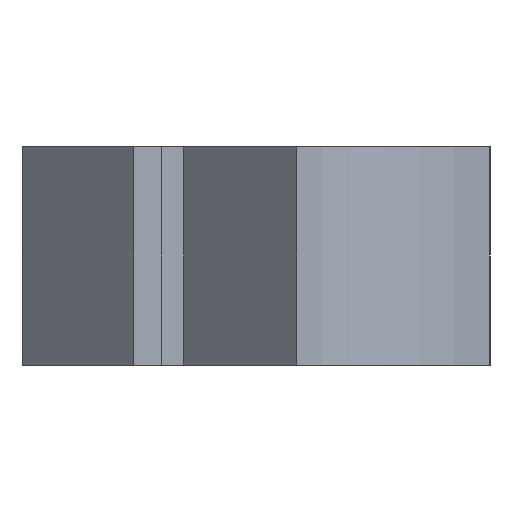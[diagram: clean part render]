
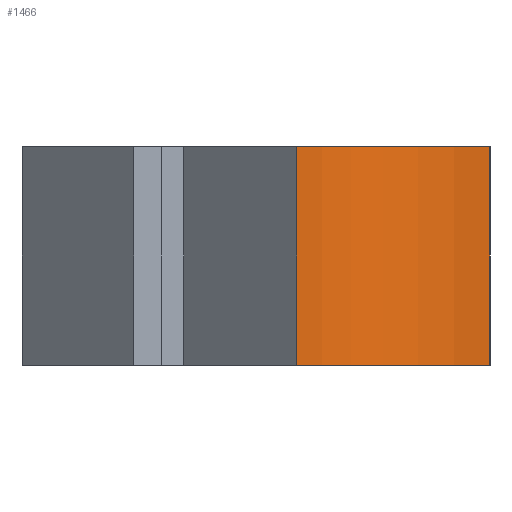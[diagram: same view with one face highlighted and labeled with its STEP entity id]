
A CAD part, left-side view. The second image highlights one B-rep face of the part: STEP entity #1466.
In plain terms, the highlighted cylindrical face has radius 25 mm (diameter 50 mm), a partial arc.
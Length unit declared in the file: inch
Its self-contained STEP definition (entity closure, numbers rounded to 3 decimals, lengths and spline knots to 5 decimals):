
#1408=CARTESIAN_POINT('',(-0.89213,-0.88583,1.0));
#1409=VERTEX_POINT('',#1408);
#1416=CARTESIAN_POINT('',(-0.89213,-0.88583,0.0));
#1417=VERTEX_POINT('',#1416);
#1418=CARTESIAN_POINT('',(-0.89213,-0.88583,0.0));
#1419=DIRECTION('',(0.0,0.0,1.0));
#1420=VECTOR('',#1419,1.0);
#1421=LINE('',#1418,#1420);
#1422=EDGE_CURVE('',#1417,#1409,#1421,.T.);
#1434=CARTESIAN_POINT('',(-1.87008,-0.77461,0.0));
#1435=DIRECTION('',(0.0,0.0,1.0));
#1436=DIRECTION('',(-0.994,0.113,0.0));
#1437=AXIS2_PLACEMENT_3D('',#1434,#1435,#1436);
#1438=CYLINDRICAL_SURFACE('',#1437,0.98425);
#1439=CARTESIAN_POINT('',(-1.25721,-0.00446,1.0));
#1440=VERTEX_POINT('',#1439);
#1441=CARTESIAN_POINT('',(-1.87008,-0.77461,1.0));
#1442=DIRECTION('',(0.0,0.0,1.0));
#1443=DIRECTION('',(-0.994,0.113,0.0));
#1444=AXIS2_PLACEMENT_3D('',#1441,#1442,#1443);
#1445=CIRCLE('',#1444,0.98425);
#1446=EDGE_CURVE('',#1409,#1440,#1445,.T.);
#1447=ORIENTED_EDGE('',*,*,#1446,.T.);
#1448=CARTESIAN_POINT('',(-1.25721,-0.00446,0.0));
#1449=VERTEX_POINT('',#1448);
#1450=CARTESIAN_POINT('',(-1.25721,-0.00446,0.0));
#1451=DIRECTION('',(0.0,0.0,1.0));
#1452=VECTOR('',#1451,1.0);
#1453=LINE('',#1450,#1452);
#1454=EDGE_CURVE('',#1449,#1440,#1453,.T.);
#1455=ORIENTED_EDGE('',*,*,#1454,.F.);
#1456=CARTESIAN_POINT('',(-1.87008,-0.77461,0.0));
#1457=DIRECTION('',(0.0,0.0,-1.0));
#1458=DIRECTION('',(-0.994,0.113,0.0));
#1459=AXIS2_PLACEMENT_3D('',#1456,#1457,#1458);
#1460=CIRCLE('',#1459,0.98425);
#1461=EDGE_CURVE('',#1449,#1417,#1460,.T.);
#1462=ORIENTED_EDGE('',*,*,#1461,.T.);
#1463=ORIENTED_EDGE('',*,*,#1422,.T.);
#1464=EDGE_LOOP('',(#1447,#1455,#1462,#1463));
#1465=FACE_OUTER_BOUND('',#1464,.T.);
#1466=ADVANCED_FACE('',(#1465),#1438,.F.);
